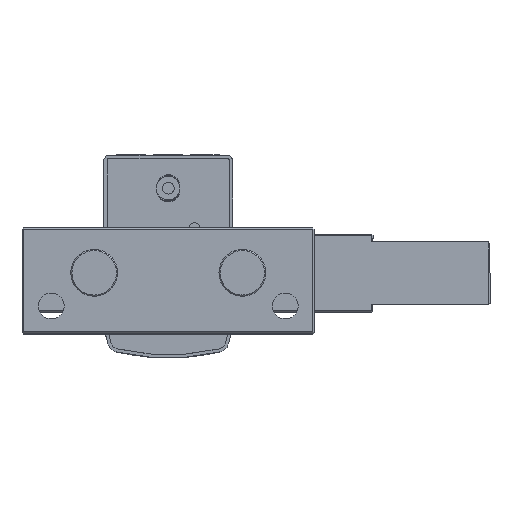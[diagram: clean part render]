
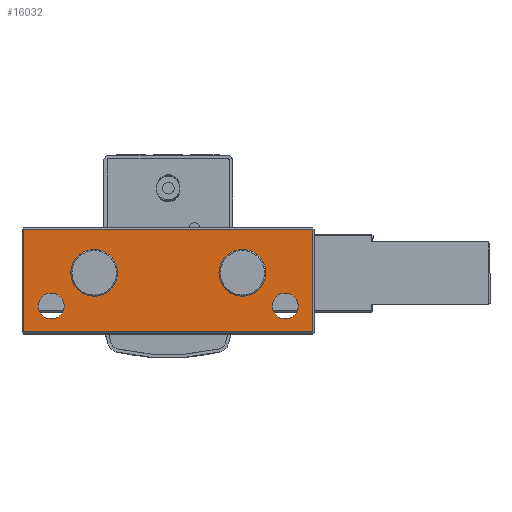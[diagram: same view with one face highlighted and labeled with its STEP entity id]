
A CAD part, top view. The second image highlights one B-rep face of the part: STEP entity #16032.
In plain terms, the highlighted planar face has unit normal (0, 0, 1).
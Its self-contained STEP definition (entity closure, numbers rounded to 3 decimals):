
#78 = CARTESIAN_POINT ( 'NONE',  ( 33.3, 7., 180. ) ) ;
#93 = EDGE_CURVE ( 'NONE', #22471, #9182, #10376, .T. ) ;
#819 = AXIS2_PLACEMENT_3D ( 'NONE', #25258, #13106, #937 ) ;
#885 = CIRCLE ( 'NONE', #25087, 3.3 ) ;
#937 = DIRECTION ( 'NONE',  ( -1., 0., 0. ) ) ;
#1080 = CARTESIAN_POINT ( 'NONE',  ( 37.1, 0.4, 180. ) ) ;
#1099 = LINE ( 'NONE', #5181, #10676 ) ;
#1369 = CARTESIAN_POINT ( 'NONE',  ( 30., 7., 180. ) ) ;
#1491 = ORIENTED_EDGE ( 'NONE', *, *, #24625, .T. ) ;
#2048 = VERTEX_POINT ( 'NONE', #3452 ) ;
#2086 = CARTESIAN_POINT ( 'NONE',  ( -37.1, 0.4, 180. ) ) ;
#2183 = VECTOR ( 'NONE', #25000, 1000. ) ;
#2207 = EDGE_CURVE ( 'NONE', #6935, #14133, #18572, .T. ) ;
#2213 = ORIENTED_EDGE ( 'NONE', *, *, #26326, .T. ) ;
#2262 = VERTEX_POINT ( 'NONE', #2086 ) ;
#2283 = FACE_OUTER_BOUND ( 'NONE', #23463, .T. ) ;
#2568 = DIRECTION ( 'NONE',  ( 0., 0., -1. ) ) ;
#2755 = VERTEX_POINT ( 'NONE', #9899 ) ;
#2922 = FACE_BOUND ( 'NONE', #20212, .T. ) ;
#3383 = ORIENTED_EDGE ( 'NONE', *, *, #21041, .T. ) ;
#3452 = CARTESIAN_POINT ( 'NONE',  ( 13., 15.5, 180. ) ) ;
#3468 = DIRECTION ( 'NONE',  ( -1., 0., 0. ) ) ;
#3898 = CARTESIAN_POINT ( 'NONE',  ( 25., 15.5, 180. ) ) ;
#4297 = VECTOR ( 'NONE', #25692, 1000. ) ;
#4692 = CARTESIAN_POINT ( 'NONE',  ( 26.7, 7., 180. ) ) ;
#4815 = CARTESIAN_POINT ( 'NONE',  ( -13., 15.5, 180. ) ) ;
#5181 = CARTESIAN_POINT ( 'NONE',  ( -37.1, 0., 180. ) ) ;
#6131 = DIRECTION ( 'NONE',  ( 0., 0., -1. ) ) ;
#6239 = CARTESIAN_POINT ( 'NONE',  ( -25., 15.5, 180. ) ) ;
#6273 = DIRECTION ( 'NONE',  ( 0., 0., -1. ) ) ;
#6429 = EDGE_CURVE ( 'NONE', #2048, #9426, #17695, .T. ) ;
#6549 = ORIENTED_EDGE ( 'NONE', *, *, #18199, .T. ) ;
#6628 = ORIENTED_EDGE ( 'NONE', *, *, #2207, .T. ) ;
#6935 = VERTEX_POINT ( 'NONE', #6239 ) ;
#7423 = AXIS2_PLACEMENT_3D ( 'NONE', #11915, #26106, #13903 ) ;
#7769 = FACE_BOUND ( 'NONE', #13533, .T. ) ;
#7927 = CARTESIAN_POINT ( 'NONE',  ( -30., 7., 180. ) ) ;
#8328 = EDGE_CURVE ( 'NONE', #14133, #6935, #25687, .T. ) ;
#8359 = AXIS2_PLACEMENT_3D ( 'NONE', #11925, #22087, #10017 ) ;
#8874 = AXIS2_PLACEMENT_3D ( 'NONE', #14635, #2568, #16609 ) ;
#9004 = CIRCLE ( 'NONE', #16810, 3.3 ) ;
#9182 = VERTEX_POINT ( 'NONE', #15800 ) ;
#9416 = CIRCLE ( 'NONE', #819, 3.3 ) ;
#9426 = VERTEX_POINT ( 'NONE', #3898 ) ;
#9669 = VERTEX_POINT ( 'NONE', #4692 ) ;
#9672 = LINE ( 'NONE', #11524, #4297 ) ;
#9714 = EDGE_CURVE ( 'NONE', #23613, #26258, #23730, .T. ) ;
#9795 = ORIENTED_EDGE ( 'NONE', *, *, #20461, .T. ) ;
#9899 = CARTESIAN_POINT ( 'NONE',  ( -37.1, 26.6, 180. ) ) ;
#9908 = DIRECTION ( 'NONE',  ( -1., 0., 0. ) ) ;
#10017 = DIRECTION ( 'NONE',  ( 1., 0., 0. ) ) ;
#10376 = CIRCLE ( 'NONE', #7423, 3.3 ) ;
#10398 = ORIENTED_EDGE ( 'NONE', *, *, #9714, .T. ) ;
#10500 = DIRECTION ( 'NONE',  ( 1., 0., 0. ) ) ;
#10676 = VECTOR ( 'NONE', #17095, 1000. ) ;
#10730 = VERTEX_POINT ( 'NONE', #78 ) ;
#11407 = CIRCLE ( 'NONE', #8874, 6. ) ;
#11524 = CARTESIAN_POINT ( 'NONE',  ( -37.5, 26.6, 180. ) ) ;
#11535 = LINE ( 'NONE', #24664, #17417 ) ;
#11915 = CARTESIAN_POINT ( 'NONE',  ( -30., 7., 180. ) ) ;
#11925 = CARTESIAN_POINT ( 'NONE',  ( 37.5, 27., 180. ) ) ;
#12066 = DIRECTION ( 'NONE',  ( 0., 0., -1. ) ) ;
#13106 = DIRECTION ( 'NONE',  ( 0., 0., -1. ) ) ;
#13533 = EDGE_LOOP ( 'NONE', ( #6628, #23439 ) ) ;
#13656 = FACE_BOUND ( 'NONE', #15880, .T. ) ;
#13903 = DIRECTION ( 'NONE',  ( -1., 0., 0. ) ) ;
#13954 = AXIS2_PLACEMENT_3D ( 'NONE', #18145, #6273, #20226 ) ;
#14133 = VERTEX_POINT ( 'NONE', #4815 ) ;
#14635 = CARTESIAN_POINT ( 'NONE',  ( 19., 15.5, 180. ) ) ;
#14995 = EDGE_CURVE ( 'NONE', #2262, #23613, #11535, .T. ) ;
#15281 = AXIS2_PLACEMENT_3D ( 'NONE', #24223, #12066, #26250 ) ;
#15463 = DIRECTION ( 'NONE',  ( 0., 0., -1. ) ) ;
#15800 = CARTESIAN_POINT ( 'NONE',  ( -26.7, 7., 180. ) ) ;
#15880 = EDGE_LOOP ( 'NONE', ( #25485, #24418 ) ) ;
#16032 = ADVANCED_FACE ( 'NONE', ( #2283, #2922, #18342, #7769, #13656 ), #17908, .T. ) ;
#16417 = EDGE_LOOP ( 'NONE', ( #23814, #2213 ) ) ;
#16609 = DIRECTION ( 'NONE',  ( -1., 0., 0. ) ) ;
#16810 = AXIS2_PLACEMENT_3D ( 'NONE', #7927, #21983, #9908 ) ;
#17095 = DIRECTION ( 'NONE',  ( 0., -1., 0. ) ) ;
#17417 = VECTOR ( 'NONE', #10500, 1000. ) ;
#17695 = CIRCLE ( 'NONE', #13954, 6. ) ;
#17908 = PLANE ( 'NONE',  #8359 ) ;
#17923 = EDGE_CURVE ( 'NONE', #9426, #2048, #11407, .T. ) ;
#18004 = CARTESIAN_POINT ( 'NONE',  ( -19., 15.5, 180. ) ) ;
#18145 = CARTESIAN_POINT ( 'NONE',  ( 19., 15.5, 180. ) ) ;
#18199 = EDGE_CURVE ( 'NONE', #9669, #10730, #885, .T. ) ;
#18342 = FACE_BOUND ( 'NONE', #16417, .T. ) ;
#18572 = CIRCLE ( 'NONE', #22553, 6. ) ;
#18976 = ORIENTED_EDGE ( 'NONE', *, *, #14995, .T. ) ;
#19680 = CARTESIAN_POINT ( 'NONE',  ( 37.1, 26.6, 180. ) ) ;
#20083 = DIRECTION ( 'NONE',  ( -1., 0., 0. ) ) ;
#20212 = EDGE_LOOP ( 'NONE', ( #6549, #3383 ) ) ;
#20226 = DIRECTION ( 'NONE',  ( -1., 0., 0. ) ) ;
#20461 = EDGE_CURVE ( 'NONE', #2755, #2262, #1099, .T. ) ;
#21041 = EDGE_CURVE ( 'NONE', #10730, #9669, #9416, .T. ) ;
#21983 = DIRECTION ( 'NONE',  ( 0., 0., -1. ) ) ;
#22087 = DIRECTION ( 'NONE',  ( 0., 0., 1. ) ) ;
#22471 = VERTEX_POINT ( 'NONE', #23964 ) ;
#22553 = AXIS2_PLACEMENT_3D ( 'NONE', #18004, #6131, #20083 ) ;
#22942 = CARTESIAN_POINT ( 'NONE',  ( 37.1, 27., 180. ) ) ;
#23439 = ORIENTED_EDGE ( 'NONE', *, *, #8328, .T. ) ;
#23463 = EDGE_LOOP ( 'NONE', ( #1491, #9795, #18976, #10398 ) ) ;
#23613 = VERTEX_POINT ( 'NONE', #1080 ) ;
#23730 = LINE ( 'NONE', #22942, #2183 ) ;
#23814 = ORIENTED_EDGE ( 'NONE', *, *, #93, .T. ) ;
#23964 = CARTESIAN_POINT ( 'NONE',  ( -33.3, 7., 180. ) ) ;
#24223 = CARTESIAN_POINT ( 'NONE',  ( -19., 15.5, 180. ) ) ;
#24418 = ORIENTED_EDGE ( 'NONE', *, *, #17923, .T. ) ;
#24625 = EDGE_CURVE ( 'NONE', #26258, #2755, #9672, .T. ) ;
#24664 = CARTESIAN_POINT ( 'NONE',  ( 37.5, 0.4, 180. ) ) ;
#25000 = DIRECTION ( 'NONE',  ( 0., 1., 0. ) ) ;
#25087 = AXIS2_PLACEMENT_3D ( 'NONE', #1369, #15463, #3468 ) ;
#25258 = CARTESIAN_POINT ( 'NONE',  ( 30., 7., 180. ) ) ;
#25485 = ORIENTED_EDGE ( 'NONE', *, *, #6429, .T. ) ;
#25687 = CIRCLE ( 'NONE', #15281, 6. ) ;
#25692 = DIRECTION ( 'NONE',  ( -1., 0., 0. ) ) ;
#26106 = DIRECTION ( 'NONE',  ( 0., 0., -1. ) ) ;
#26250 = DIRECTION ( 'NONE',  ( -1., 0., 0. ) ) ;
#26258 = VERTEX_POINT ( 'NONE', #19680 ) ;
#26326 = EDGE_CURVE ( 'NONE', #9182, #22471, #9004, .T. ) ;
